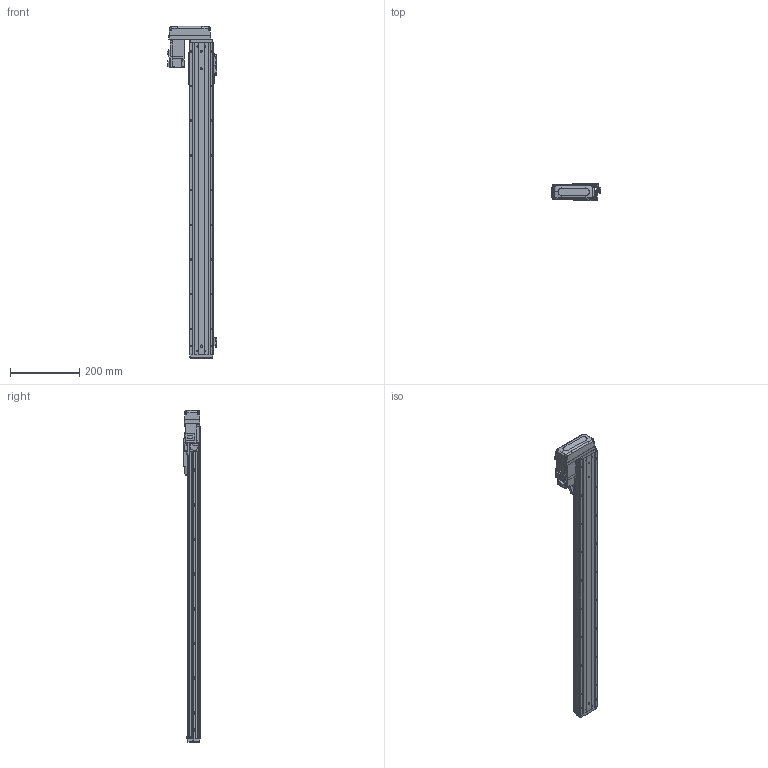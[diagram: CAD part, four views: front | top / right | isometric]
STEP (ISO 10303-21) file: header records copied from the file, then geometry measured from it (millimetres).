
FILE_DESCRIPTION (( 'STEP AP203' ), '1' );
FILE_NAME ('CTHA60-750-BR-M10-C4L.step', '2022-03-19T06:23:17', ( '微软用户' ), ( '微软中国' ), 'SwSTEP 2.0', 'SolidWorks 2020', '' );
FILE_SCHEMA (( 'CONFIG_CONTROL_DESIGN' ));
Length unit declared in the file: millimetre
Products named in the file (18): CTHA60-005; GBT 70.1-M3℅6; CTHA60-033; GB¨uT 70.2-M3¡Á6_M3¡Á6; GBT 70.3-M3℅6; CTHA60-750-BR-M10-C4L; EE_SX911P_R; CTHA60-016; CTHA60-017; HG-KR13（三菱）; CTHA60-021; CTHA60-002; CTHA60-001_900; GBT 70.1-M4×16; CTHA60-031; CTHA60-004; GBT77-2000 M3×3; CTHA60-006-1
Assembly tree (54 placements, depth 2):
  CTHA60-750-BR-M10-C4L
    CTHA60-001_900
    CTHA60-004
    CTHA60-005
    GB¨uT 70.2-M3¡Á6_M3¡Á6  x10
    EE_SX911P_R  x3
    CTHA60-017  x3
    CTHA60-021  x2
    GBT 70.1-M4×16  x10
    GBT77-2000 M3×3  x6
    GBT 70.1-M3℅6  x6
    GBT 70.3-M3℅6  x4
    CTHA60-016  x2
    HG-KR13（三菱）
    CTHA60-002
    CTHA60-031
    CTHA60-006-1
    CTHA60-033
Bounding box: 143.62 x 48 x 957 mm (x, y, z)
Volume: 1612007.5 mm3; surface area: 477656 mm2
Topology: 56 solids, 56 shells, 2574 faces, 6205 edges, 3829 vertices
Faces by surface type: plane 1485, cylinder 595, cone 346, torus 92, bspline 32, sphere 24
Entity records: 46949 total; most frequent: CARTESIAN_POINT 9034, DIRECTION 7276, ORIENTED_EDGE 7218, EDGE_CURVE 3609, VECTOR 2568, LINE 2568, AXIS2_PLACEMENT_3D 2354, VERTEX_POINT 2288
